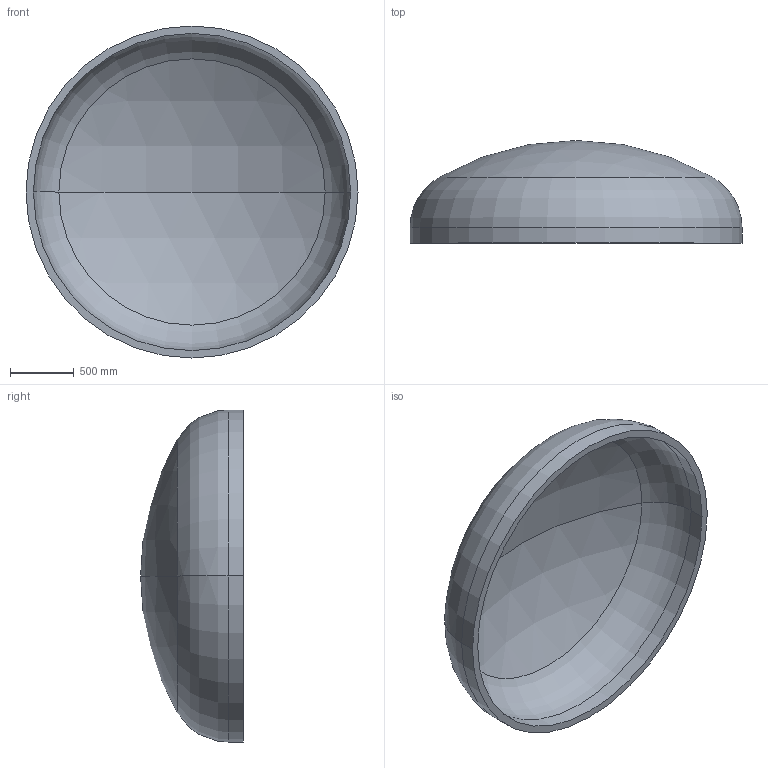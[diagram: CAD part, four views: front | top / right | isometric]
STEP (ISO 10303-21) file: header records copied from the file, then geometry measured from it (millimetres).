
FILE_DESCRIPTION (( 'STEP AP203' ), '1' );
FILE_NAME ('DIN 28013 Korbbogenform_-_Boden DIN 28013 - 2600 x 120 - I - s=58.step', '2016-07-01T16:18:31', ( '' ), ( '' ), 'SwSTEP 2.0', 'SolidWorks 2013', '' );
FILE_SCHEMA (( 'CONFIG_CONTROL_DESIGN' ));
Length unit declared in the file: millimetre
Products named in the file (1): DIN 28013 Korbbogenform_-_Boden DIN 28013 - 2600 x 120 - I - s=58
Bounding box: 2600 x 804.23 x 2600 mm (x, y, z)
Volume: 469667766.3 mm3; surface area: 16665664.3 mm2
Topology: 1 solids, 1 shells, 13 faces, 24 edges, 14 vertices
Faces by surface type: torus 4, cylinder 4, sphere 4, plane 1
Entity records: 407 total; most frequent: DIRECTION 72, CARTESIAN_POINT 52, ORIENTED_EDGE 48, AXIS2_PLACEMENT_3D 34, EDGE_CURVE 24, CIRCLE 20, EDGE_LOOP 14, VERTEX_POINT 14
